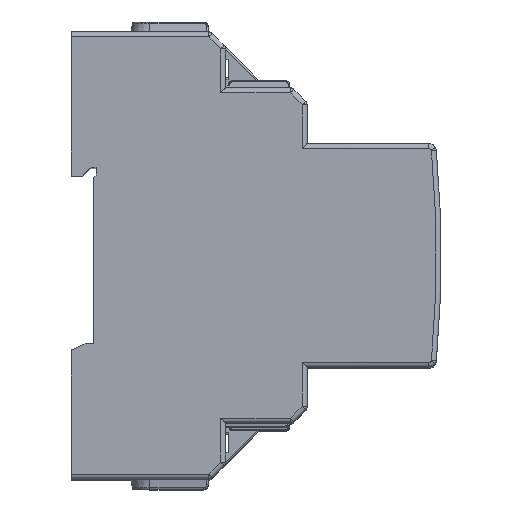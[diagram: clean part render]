
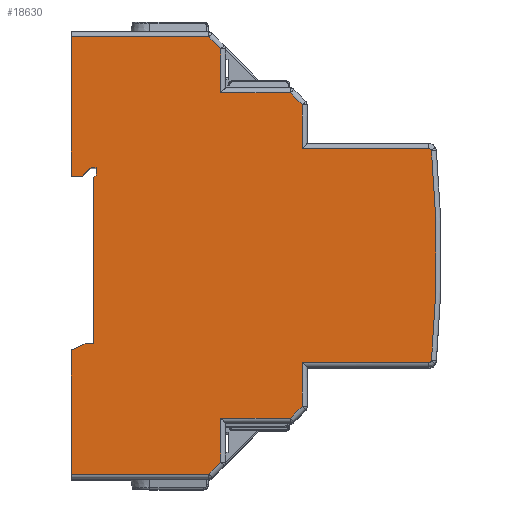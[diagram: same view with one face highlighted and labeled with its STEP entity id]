
A CAD part, top view. The second image highlights one B-rep face of the part: STEP entity #18630.
In plain terms, the highlighted planar face has unit normal (0, 0, 1).
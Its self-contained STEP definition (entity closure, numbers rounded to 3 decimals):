
#166=B_SPLINE_CURVE_WITH_KNOTS($,3,(#31188,#31189,#31190,#31191,#31192,
#31193,#31194,#31195),.UNSPECIFIED.,.F.,.F.,(4,2,2,4),(0.,0.025,
0.038,0.052),.UNSPECIFIED.);
#259=B_SPLINE_CURVE_WITH_KNOTS($,3,(#35814,#35815,#35816,#35817,#35818,
#35819,#35820,#35821),.UNSPECIFIED.,.F.,.F.,(4,2,2,4),(0.,0.014,
0.027,0.052),.UNSPECIFIED.);
#1017=PLANE($,#20430);
#1804=FACE_OUTER_BOUND($,#2668,.T.);
#2668=EDGE_LOOP($,(#16986,#16987,#16988,#16989,#16990,#16991,#16992,#16993,
#16994,#16995,#16996,#16997,#16998,#16999,#17000,#17001,#17002,#17003,#17004,
#17005,#17006,#17007,#17008,#17009,#17010,#17011,#17012,#17013,#17014));
#3287=CIRCLE($,#19707,0.5);
#3290=CIRCLE($,#19711,221.5);
#3293=CIRCLE($,#19714,0.5);
#4472=LINE($,#31256,#6151);
#4477=LINE($,#31281,#6156);
#4479=LINE($,#31287,#6158);
#4867=LINE($,#33389,#6546);
#4869=LINE($,#33397,#6548);
#5268=LINE($,#35764,#6947);
#5270=LINE($,#35773,#6949);
#5274=LINE($,#35781,#6953);
#5277=LINE($,#35787,#6956);
#5278=LINE($,#35788,#6957);
#5279=LINE($,#35790,#6958);
#5280=LINE($,#35791,#6959);
#5281=LINE($,#35793,#6960);
#5282=LINE($,#35795,#6961);
#5283=LINE($,#35797,#6962);
#5284=LINE($,#35799,#6963);
#5285=LINE($,#35800,#6964);
#5286=LINE($,#35802,#6965);
#5287=LINE($,#35804,#6966);
#5288=LINE($,#35805,#6967);
#5289=LINE($,#35807,#6968);
#5290=LINE($,#35809,#6969);
#5291=LINE($,#35811,#6970);
#5292=LINE($,#35813,#6971);
#6151=VECTOR($,#23254,27.686);
#6156=VECTOR($,#23283,3.414);
#6158=VECTOR($,#23289,8.836);
#6546=VECTOR($,#24351,13.986);
#6548=VECTOR($,#24359,3.414);
#6947=VECTOR($,#25458,27.686);
#6949=VECTOR($,#25466,33.4);
#6953=VECTOR($,#25472,0.707);
#6956=VECTOR($,#25477,25.5);
#6957=VECTOR($,#25478,8.836);
#6958=VECTOR($,#25479,8.836);
#6959=VECTOR($,#25480,3.414);
#6960=VECTOR($,#25481,28.);
#6961=VECTOR($,#25482,2.3);
#6962=VECTOR($,#25483,2.404);
#6963=VECTOR($,#25484,1.);
#6964=VECTOR($,#25485,1.5);
#6965=VECTOR($,#25486,1.5);
#6966=VECTOR($,#25487,3.27);
#6967=VECTOR($,#25488,25.);
#6968=VECTOR($,#25489,13.986);
#6969=VECTOR($,#25490,3.414);
#6970=VECTOR($,#25491,8.836);
#6971=VECTOR($,#25492,25.5);
#8336=VERTEX_POINT($,#31185);
#8337=VERTEX_POINT($,#31187);
#8339=VERTEX_POINT($,#31215);
#8341=VERTEX_POINT($,#31221);
#8343=VERTEX_POINT($,#31235);
#8351=VERTEX_POINT($,#31253);
#8352=VERTEX_POINT($,#31255);
#8360=VERTEX_POINT($,#31280);
#8362=VERTEX_POINT($,#31286);
#8844=VERTEX_POINT($,#33387);
#8845=VERTEX_POINT($,#33388);
#8848=VERTEX_POINT($,#33396);
#9366=VERTEX_POINT($,#35762);
#9367=VERTEX_POINT($,#35763);
#9370=VERTEX_POINT($,#35771);
#9371=VERTEX_POINT($,#35772);
#9374=VERTEX_POINT($,#35780);
#9376=VERTEX_POINT($,#35786);
#9377=VERTEX_POINT($,#35789);
#9378=VERTEX_POINT($,#35792);
#9379=VERTEX_POINT($,#35794);
#9380=VERTEX_POINT($,#35796);
#9381=VERTEX_POINT($,#35798);
#9382=VERTEX_POINT($,#35801);
#9383=VERTEX_POINT($,#35803);
#9384=VERTEX_POINT($,#35806);
#9385=VERTEX_POINT($,#35808);
#9386=VERTEX_POINT($,#35810);
#9387=VERTEX_POINT($,#35812);
#11020=EDGE_CURVE($,#8336,#8337,#166,.T.);
#11023=EDGE_CURVE($,#8337,#8339,#3287,.T.);
#11026=EDGE_CURVE($,#8339,#8341,#3290,.T.);
#11029=EDGE_CURVE($,#8341,#8343,#3293,.T.);
#11038=EDGE_CURVE($,#8352,#8351,#4472,.T.);
#11050=EDGE_CURVE($,#8351,#8360,#4477,.T.);
#11053=EDGE_CURVE($,#8360,#8362,#4479,.T.);
#11729=EDGE_CURVE($,#8844,#8845,#4867,.T.);
#11733=EDGE_CURVE($,#8848,#8844,#4869,.T.);
#12443=EDGE_CURVE($,#9366,#9367,#5268,.T.);
#12447=EDGE_CURVE($,#9370,#9371,#5270,.T.);
#12451=EDGE_CURVE($,#9374,#9370,#5274,.T.);
#12454=EDGE_CURVE($,#8336,#9376,#5277,.T.);
#12455=EDGE_CURVE($,#9376,#8848,#5278,.T.);
#12456=EDGE_CURVE($,#8845,#9377,#5279,.T.);
#12457=EDGE_CURVE($,#9377,#9367,#5280,.T.);
#12458=EDGE_CURVE($,#9366,#9378,#5281,.T.);
#12459=EDGE_CURVE($,#9378,#9379,#5282,.T.);
#12460=EDGE_CURVE($,#9379,#9380,#5283,.T.);
#12461=EDGE_CURVE($,#9380,#9381,#5284,.T.);
#12462=EDGE_CURVE($,#9381,#9374,#5285,.T.);
#12463=EDGE_CURVE($,#9371,#9382,#5286,.T.);
#12464=EDGE_CURVE($,#9382,#9383,#5287,.T.);
#12465=EDGE_CURVE($,#9383,#8352,#5288,.T.);
#12466=EDGE_CURVE($,#8362,#9384,#5289,.T.);
#12467=EDGE_CURVE($,#9384,#9385,#5290,.T.);
#12468=EDGE_CURVE($,#9385,#9386,#5291,.T.);
#12469=EDGE_CURVE($,#9387,#9386,#5292,.T.);
#12470=EDGE_CURVE($,#8343,#9387,#259,.T.);
#16986=ORIENTED_EDGE($,*,*,#12454,.T.);
#16987=ORIENTED_EDGE($,*,*,#12455,.T.);
#16988=ORIENTED_EDGE($,*,*,#11733,.T.);
#16989=ORIENTED_EDGE($,*,*,#11729,.T.);
#16990=ORIENTED_EDGE($,*,*,#12456,.T.);
#16991=ORIENTED_EDGE($,*,*,#12457,.T.);
#16992=ORIENTED_EDGE($,*,*,#12443,.F.);
#16993=ORIENTED_EDGE($,*,*,#12458,.T.);
#16994=ORIENTED_EDGE($,*,*,#12459,.T.);
#16995=ORIENTED_EDGE($,*,*,#12460,.T.);
#16996=ORIENTED_EDGE($,*,*,#12461,.T.);
#16997=ORIENTED_EDGE($,*,*,#12462,.T.);
#16998=ORIENTED_EDGE($,*,*,#12451,.T.);
#16999=ORIENTED_EDGE($,*,*,#12447,.T.);
#17000=ORIENTED_EDGE($,*,*,#12463,.T.);
#17001=ORIENTED_EDGE($,*,*,#12464,.T.);
#17002=ORIENTED_EDGE($,*,*,#12465,.T.);
#17003=ORIENTED_EDGE($,*,*,#11038,.T.);
#17004=ORIENTED_EDGE($,*,*,#11050,.T.);
#17005=ORIENTED_EDGE($,*,*,#11053,.T.);
#17006=ORIENTED_EDGE($,*,*,#12466,.T.);
#17007=ORIENTED_EDGE($,*,*,#12467,.T.);
#17008=ORIENTED_EDGE($,*,*,#12468,.T.);
#17009=ORIENTED_EDGE($,*,*,#12469,.F.);
#17010=ORIENTED_EDGE($,*,*,#12470,.F.);
#17011=ORIENTED_EDGE($,*,*,#11029,.F.);
#17012=ORIENTED_EDGE($,*,*,#11026,.F.);
#17013=ORIENTED_EDGE($,*,*,#11023,.F.);
#17014=ORIENTED_EDGE($,*,*,#11020,.F.);
#18630=ADVANCED_FACE($,(#1804),#1017,.F.);
#19707=AXIS2_PLACEMENT_3D($,#31216,#23221,#23222);
#19711=AXIS2_PLACEMENT_3D($,#31222,#23229,#23230);
#19714=AXIS2_PLACEMENT_3D($,#31236,#23235,#23236);
#20430=AXIS2_PLACEMENT_3D($,#35785,#25475,#25476);
#23221=DIRECTION('center_axis',(0.,0.,-1.));
#23222=DIRECTION('ref_axis',(0.953,0.304,0.));
#23229=DIRECTION('center_axis',(0.,0.,-1.));
#23230=DIRECTION('ref_axis',(1.,0.,0.));
#23235=DIRECTION('center_axis',(0.,0.,-1.));
#23236=DIRECTION('ref_axis',(0.953,-0.304,0.));
#23254=DIRECTION($,(1.,0.,0.));
#23283=DIRECTION($,(0.707,0.707,0.));
#23289=DIRECTION($,(0.,1.,0.));
#24351=DIRECTION($,(-1.,0.,0.));
#24359=DIRECTION($,(-0.707,0.707,0.));
#25458=DIRECTION($,(1.,0.,0.));
#25466=DIRECTION($,(0.,-1.,0.));
#25472=DIRECTION($,(-0.707,-0.707,0.));
#25475=DIRECTION('center_axis',(0.,0.,-1.));
#25476=DIRECTION('ref_axis',(-1.,0.,0.));
#25477=DIRECTION($,(-1.,0.,0.));
#25478=DIRECTION($,(0.,1.,0.));
#25479=DIRECTION($,(0.,1.,0.));
#25480=DIRECTION($,(-0.707,0.707,0.));
#25481=DIRECTION($,(0.,-1.,0.));
#25482=DIRECTION($,(1.,0.,0.));
#25483=DIRECTION($,(0.707,0.707,0.));
#25484=DIRECTION($,(1.,0.,0.));
#25485=DIRECTION($,(0.,-1.,0.));
#25486=DIRECTION($,(-1.,0.,0.));
#25487=DIRECTION($,(-0.918,-0.398,0.));
#25488=DIRECTION($,(0.,-1.,0.));
#25489=DIRECTION($,(1.,0.,0.));
#25490=DIRECTION($,(0.707,0.707,0.));
#25491=DIRECTION($,(0.,1.,0.));
#25492=DIRECTION($,(-1.,0.,0.));
#31185=CARTESIAN_POINT('',(72.,21.5,53.75));
#31187=CARTESIAN_POINT('',(72.433,21.25,53.75));
#31188=CARTESIAN_POINT('Ctrl Pts',(72.,21.5,53.75));
#31189=CARTESIAN_POINT('Ctrl Pts',(72.084,21.5,53.75));
#31190=CARTESIAN_POINT('Ctrl Pts',(72.169,21.478,53.75));
#31191=CARTESIAN_POINT('Ctrl Pts',(72.282,21.415,53.75));
#31192=CARTESIAN_POINT('Ctrl Pts',(72.317,21.389,53.75));
#31193=CARTESIAN_POINT('Ctrl Pts',(72.382,21.326,53.75));
#31194=CARTESIAN_POINT('Ctrl Pts',(72.41,21.289,53.75));
#31195=CARTESIAN_POINT('Ctrl Pts',(72.433,21.25,53.75));
#31215=CARTESIAN_POINT('',(72.498,21.048,53.75));
#31216=CARTESIAN_POINT('Origin',(72.,21.,53.75));
#31221=CARTESIAN_POINT('',(72.498,-21.048,53.75));
#31222=CARTESIAN_POINT('Origin',(-148.,0.,53.75));
#31235=CARTESIAN_POINT('',(72.433,-21.25,53.75));
#31236=CARTESIAN_POINT('Origin',(72.,-21.,53.75));
#31253=CARTESIAN_POINT('',(27.686,-44.,53.75));
#31255=CARTESIAN_POINT('',(0.,-44.,53.75));
#31256=CARTESIAN_POINT($,(31.1,-44.,53.75));
#31280=CARTESIAN_POINT('',(30.1,-41.586,53.75));
#31281=CARTESIAN_POINT($,(30.393,-41.293,53.75));
#31286=CARTESIAN_POINT('',(30.1,-32.75,53.75));
#31287=CARTESIAN_POINT($,(30.1,45.,53.75));
#33387=CARTESIAN_POINT('',(44.086,32.75,53.75));
#33388=CARTESIAN_POINT('',(30.1,32.75,53.75));
#33389=CARTESIAN_POINT($,(31.1,32.75,53.75));
#33396=CARTESIAN_POINT('',(46.5,30.336,53.75));
#33397=CARTESIAN_POINT($,(43.793,33.043,53.75));
#35762=CARTESIAN_POINT('',(0.,44.,53.75));
#35763=CARTESIAN_POINT('',(27.686,44.,53.75));
#35764=CARTESIAN_POINT($,(15.55,44.,53.75));
#35771=CARTESIAN_POINT('',(4.5,15.7,53.75));
#35772=CARTESIAN_POINT('',(4.5,-17.7,53.75));
#35773=CARTESIAN_POINT($,(4.5,7.85,53.75));
#35780=CARTESIAN_POINT('',(5.,16.2,53.75));
#35781=CARTESIAN_POINT($,(9.013,20.213,53.75));
#35785=CARTESIAN_POINT('Origin',(31.1,45.,53.75));
#35786=CARTESIAN_POINT('',(46.5,21.5,53.75));
#35787=CARTESIAN_POINT($,(31.1,21.5,53.75));
#35788=CARTESIAN_POINT($,(46.5,45.,53.75));
#35789=CARTESIAN_POINT('',(30.1,41.586,53.75));
#35790=CARTESIAN_POINT($,(30.1,45.,53.75));
#35791=CARTESIAN_POINT($,(27.393,44.293,53.75));
#35792=CARTESIAN_POINT('',(0.,16.,53.75));
#35793=CARTESIAN_POINT($,(0.,-45.,53.75));
#35794=CARTESIAN_POINT('',(2.3,16.,53.75));
#35795=CARTESIAN_POINT($,(18.625,16.,53.75));
#35796=CARTESIAN_POINT('',(4.,17.7,53.75));
#35797=CARTESIAN_POINT($,(7.037,20.738,53.75));
#35798=CARTESIAN_POINT('',(5.,17.7,53.75));
#35799=CARTESIAN_POINT($,(20.625,17.7,53.75));
#35800=CARTESIAN_POINT($,(5.,8.85,53.75));
#35801=CARTESIAN_POINT('',(3.,-17.7,53.75));
#35802=CARTESIAN_POINT($,(20.875,-17.7,53.75));
#35803=CARTESIAN_POINT('',(0.,-19.,53.75));
#35804=CARTESIAN_POINT($,(20.646,-10.053,53.75));
#35805=CARTESIAN_POINT($,(0.,-45.,53.75));
#35806=CARTESIAN_POINT('',(44.086,-32.75,53.75));
#35807=CARTESIAN_POINT($,(31.1,-32.75,53.75));
#35808=CARTESIAN_POINT('',(46.5,-30.336,53.75));
#35809=CARTESIAN_POINT($,(46.793,-30.043,53.75));
#35810=CARTESIAN_POINT('',(46.5,-21.5,53.75));
#35811=CARTESIAN_POINT($,(46.5,45.,53.75));
#35812=CARTESIAN_POINT('',(72.,-21.5,53.75));
#35813=CARTESIAN_POINT($,(42.375,-21.5,53.75));
#35814=CARTESIAN_POINT('Ctrl Pts',(72.433,-21.25,53.75));
#35815=CARTESIAN_POINT('Ctrl Pts',(72.41,-21.289,53.75));
#35816=CARTESIAN_POINT('Ctrl Pts',(72.382,-21.326,53.75));
#35817=CARTESIAN_POINT('Ctrl Pts',(72.317,-21.389,53.75));
#35818=CARTESIAN_POINT('Ctrl Pts',(72.282,-21.415,53.75));
#35819=CARTESIAN_POINT('Ctrl Pts',(72.169,-21.478,53.75));
#35820=CARTESIAN_POINT('Ctrl Pts',(72.084,-21.5,53.75));
#35821=CARTESIAN_POINT('Ctrl Pts',(72.,-21.5,53.75));
